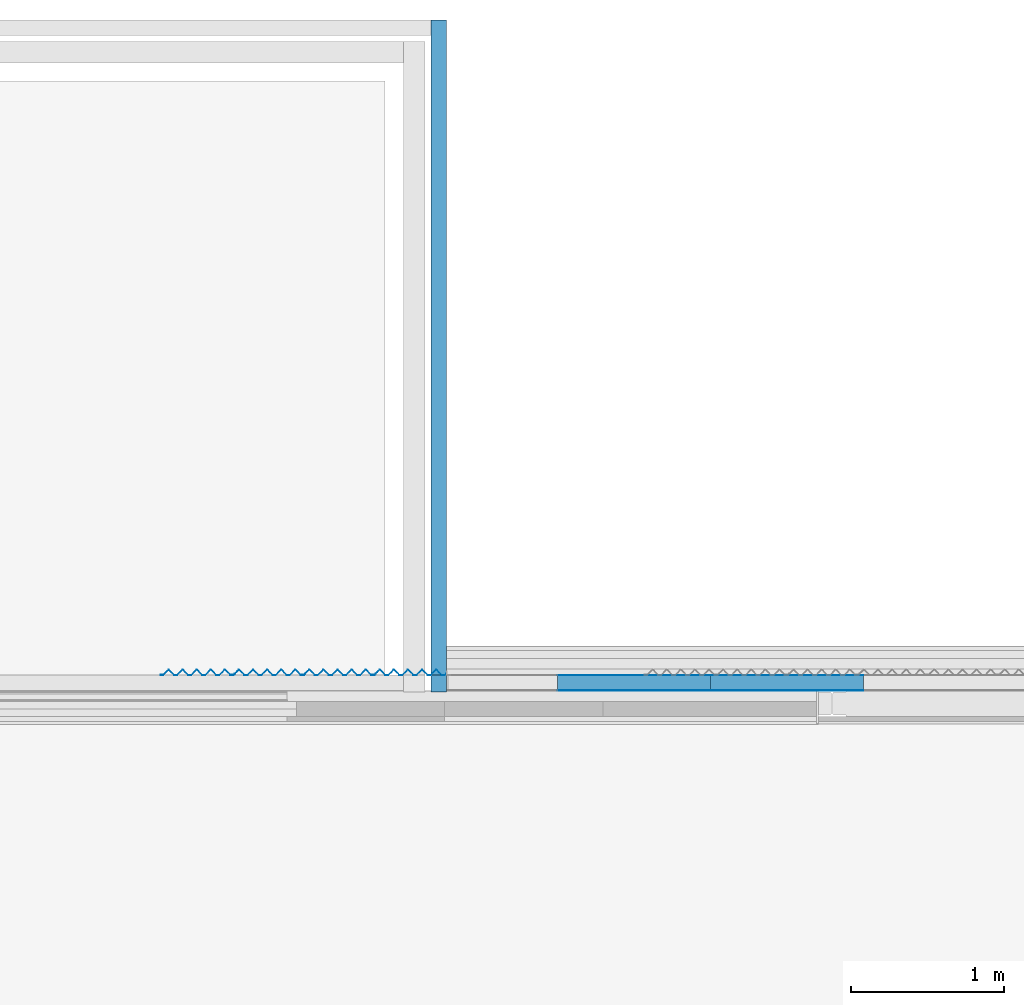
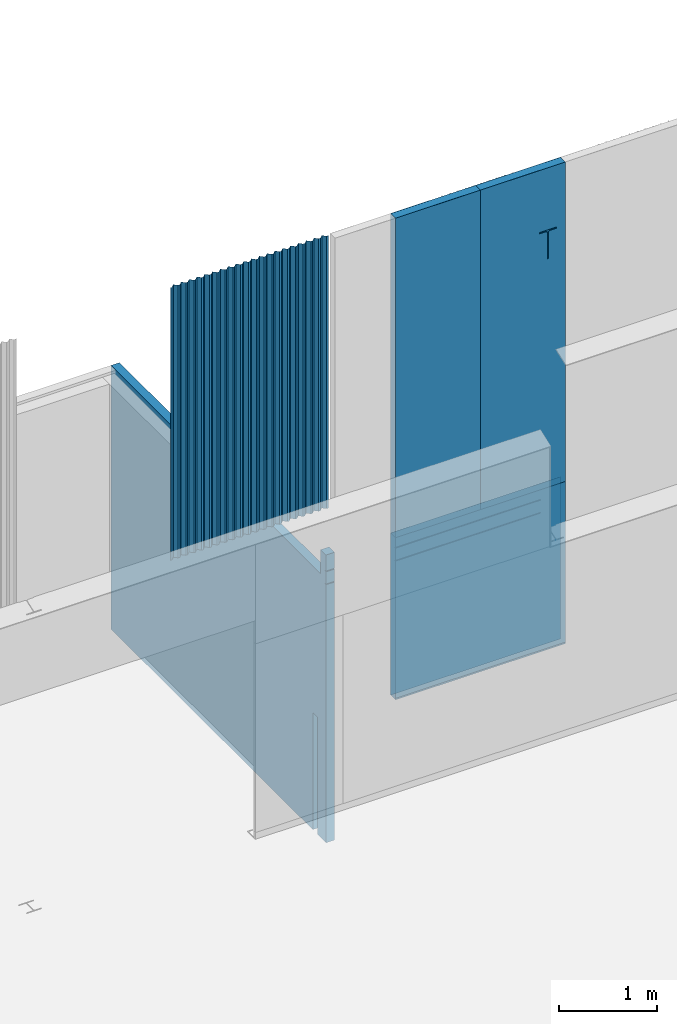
# One storey, part 96 of 338: 14 building element parts, 6 elements without a shape of their own.
"""IFC2X3 building model written with IfcOpenShell, lengths in millimetres."""

from ifc_helpers import new_model, entity, si_unit, converted_unit, derived_unit, money_unit, direction, frame, origin_with_axes, place, context, subcontext, project, spatial, faceted_brep, material, type_object, element, aggregate, save


model = new_model("IFC2X3")

# Units and contexts
model_context = context("Model", 3, precision=0.01, world=origin_with_axes(), true_north=direction((0.0, 1.0)))
plan_context = context("Plan", 3, precision=0.01, world=origin_with_axes(), true_north=direction((0.0, 1.0)))
body_context = subcontext(model_context, "Body", "Model", "MODEL_VIEW")
ifc_project = project(units=[si_unit("LENGTHUNIT", "METRE", prefix="MILLI"), si_unit("AREAUNIT", "SQUARE_METRE"), si_unit("VOLUMEUNIT", "CUBIC_METRE"), converted_unit("PLANEANGLEUNIT", "DEGREE", entity("IfcPlaneAngleMeasure", 0.0174532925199), si_unit("PLANEANGLEUNIT", "RADIAN"), dimensions=[0, 0, 0, 0, 0, 0, 0]), money_unit("EUR"), converted_unit("TIMEUNIT", "Year", entity("IfcTimeMeasure", 31556926.0), si_unit("TIMEUNIT", "SECOND"), dimensions=[0, 0, 1, 0, 0, 0, 0]), si_unit("MASSUNIT", "GRAM", prefix="KILO"), si_unit("THERMODYNAMICTEMPERATUREUNIT", "DEGREE_CELSIUS"), si_unit("LUMINOUSINTENSITYUNIT", "LUMEN"), si_unit("ENERGYUNIT", "JOULE", prefix="MEGA"), derived_unit("THERMALCONDUCTANCEUNIT", [(si_unit("POWERUNIT", "WATT"), 1), (si_unit("LENGTHUNIT", "METRE"), -1), (si_unit("THERMODYNAMICTEMPERATUREUNIT", "KELVIN"), -1)]), derived_unit("SPECIFICHEATCAPACITYUNIT", [(si_unit("ENERGYUNIT", "JOULE"), 1), (si_unit("MASSUNIT", "GRAM", prefix="KILO"), -1), (si_unit("THERMODYNAMICTEMPERATUREUNIT", "KELVIN"), -1)]), derived_unit("MASSDENSITYUNIT", [(si_unit("MASSUNIT", "GRAM", prefix="KILO"), 1), (si_unit("VOLUMEUNIT", "CUBIC_METRE"), -1)])], contexts=[model_context, plan_context])

# Site, building, storey
site_placement = place(None, origin_with_axes())
site = spatial("IfcSite", under=ifc_project, at=site_placement, Name="Fortuinstraat Woensdrecht", CompositionType="ELEMENT")
building_placement = place(site_placement, origin_with_axes())
building = spatial("IfcBuilding", under=site, at=building_placement, Name="IKC Fortuna", CompositionType="ELEMENT")
storey_placement = place(building_placement, origin_with_axes())
storey = spatial("IfcBuildingStorey", under=building, at=storey_placement, Name="00 begane grond", CompositionType="ELEMENT", Elevation=0.0)

# Wall, building element part
wall_type_1 = type_object("IfcWallType", Name="21 MW accent 280", PredefinedType="NOTDEFINED")
wall_1_placement = place(storey_placement, frame((44333.4279792, 39596.2966283, -485.0), z_axis=(0.0, 0.0, 1.0), x_axis=(-2.24888890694e-07, -1.0, 0.0)))
wall_1 = element("IfcWall", 1, at=wall_1_placement, inside=storey, type_object=wall_type_1, Name="21_Wand_Baksteen")
ifc_material_1 = material(Name="Steen - Baksteen Accent")
building_element_part_1_placement = place(wall_1_placement, origin_with_axes())
building_element_part_1 = element("IfcBuildingElementPart", 2, at=building_element_part_1_placement, material=ifc_material_1, Name="Steen - Baksteen Accent", context=body_context, shape_type="Brep", body=[
    faceted_brep([(4090.99993703, 280.0, 3375.5), (4109.99995952, 280.0, 3375.5), (4109.99995952, 280.0, 3223.5), (4090.99993703, 280.0, 3223.5), (4090.99993703, 280.0, 3214.0), (4109.99995952, 280.0, 3214.0), (4109.99995952, 280.0, 0.0), (3939.99993705, 280.0, 0.0), (3939.99993705, 279.999936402, 1460.0), (3839.99993705, 279.999936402, 1460.0), (3839.99993705, 280.0, 0.0), (-280.000062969, 280.0, 0.0), (-280.000060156, 279.999937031, 3285.0), (3999.99993703, 280.000899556, 3285.0), (3999.99993703, 280.00242465, 3585.00000082), (4109.99995952, 280.0, 3585.0), (4109.99995952, 280.0, 3385.0), (4090.99993703, 280.0, 3385.0), (4090.99995952, 180.0, 3375.5), (4109.99995952, 180.0, 3375.5), (4109.99995952, 180.0, 3223.5), (4090.99995952, 180.0, 3223.5), (4090.99995952, 180.0, 3214.0), (4109.99995952, 180.0, 3214.0), (4109.99995952, 180.0, 0.0), (3939.99995954, 180.0, 0.0), (3939.99995954, 180.0, 1460.0), (3839.99995954, 180.0, 1460.0), (3839.99995954, 180.0, 0.0), (-280.00004048, 180.0, 0.0), (-280.000037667, 179.999937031, 3285.0), (3999.99995952, 180.000899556, 3285.0), (3999.99995952, 180.000904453, 3585.00000254), (4109.99995952, 180.0, 3585.0), (4109.99995952, 180.0, 3385.0), (4090.99995952, 180.0, 3385.0)], [[[0, 1, 2, 3, 4, 5, 6, 7, 8, 9, 10, 11, 12, 13, 14, 15, 16, 17]], [[1, 0, 18, 19]], [[1, 19, 20, 2]], [[3, 2, 20, 21]], [[4, 3, 21, 22]], [[5, 4, 22, 23]], [[5, 23, 24, 6]], [[24, 25, 7, 6]], [[26, 8, 7, 25]], [[27, 9, 8, 26]], [[28, 10, 9, 27]], [[11, 10, 28, 29]], [[30, 12, 11, 29]], [[13, 12, 30, 31]], [[13, 31, 32, 14]], [[33, 15, 14, 32]], [[34, 16, 15, 33]], [[17, 16, 34, 35]], [[0, 17, 35, 18]], [[35, 34, 33, 32, 31, 30, 29, 28, 27, 26, 25, 24, 23, 22, 21, 20, 19, 18]]]),
])
aggregate(wall_1, [building_element_part_1])

# Wall, building element parts
wall_type_2 = type_object("IfcWallType", Name="21 sandwich 100", PredefinedType="NOTDEFINED")
wall_2_placement = place(storey_placement, frame((45338.4270571, 35496.2966282, 1000.0), z_axis=(0.0, 0.0, 1.0), x_axis=(1.0, 0.0, 0.0)))
wall_2 = element("IfcWall", 3, at=wall_2_placement, inside=storey, type_object=wall_type_2, Name="21_Wand_sandwichplaat")
ifc_material_2 = material(Name="Metaal - Aluminium")
building_element_part_2_placement = place(wall_2_placement, origin_with_axes())
building_element_part_2 = element("IfcBuildingElementPart", 4, at=building_element_part_2_placement, material=ifc_material_2, Name="Metaal - Aluminium", context=body_context, shape_type="Brep", body=[
    faceted_brep([(2000.0, 98.9999999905, 2019.99999434), (2000.0, 99.9999999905, 2019.99999434), (4.76063632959e-10, 100.0, 2019.99999434), (4.68958205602e-10, 99.0, 2019.99999434), (2000.0, 98.9999999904, 0.0), (2000.0, 99.9999999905, 0.0), (4.76063632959e-10, 100.0, 0.0), (4.68958205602e-10, 99.0, 0.0)], [[[0, 1, 2, 3]], [[0, 4, 5, 1]], [[1, 5, 6, 2]], [[3, 2, 6, 7]], [[4, 0, 3, 7]], [[5, 4, 7, 6]]]),
])
ifc_material_3 = material(Name="Isolatie - Kunststof hard")
building_element_part_3_placement = place(wall_2_placement, origin_with_axes())
building_element_part_3 = element("IfcBuildingElementPart", 5, at=building_element_part_3_placement, material=ifc_material_3, Name="Isolatie - Kunststof hard", context=body_context, shape_type="Brep", body=[
    faceted_brep([(1705.00000008, 0.999999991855, 1890.5), (0.0, 0.999999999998, 1890.5), (0.0, 0.999999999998, 1738.5), (1705.00000008, 0.999999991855, 1738.5), (1705.00000008, 0.999999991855, 1729.0), (0.0, 0.999999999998, 1729.0), (0.0, 0.999999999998, 0.0), (2000.0, 0.999999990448, 0.0), (2000.0, 0.999999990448, 2019.99999434), (0.0, 0.999999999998, 2019.99999434), (0.0, 0.999999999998, 1900.0), (1705.00000008, 0.999999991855, 1900.0), (1705.00000008, 9.00000001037, 1890.5), (0.0, 9.00000001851, 1890.5), (0.0, 9.00000001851, 1900.0), (4.68958205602e-10, 99.0, 2019.99999434), (4.68958205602e-10, 99.0, 0.0), (0.0, 9.00000001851, 1729.0), (0.0, 9.00000001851, 1738.5), (1705.00000008, 9.00000001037, 1738.5), (1705.00000008, 9.00000001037, 1729.0), (2000.0, 98.9999999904, 0.0), (2000.0, 98.9999999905, 2019.99999434), (1705.00000008, 9.00000001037, 1900.0)], [[[0, 1, 2, 3, 4, 5, 6, 7, 8, 9, 10, 11]], [[1, 0, 12, 13]], [[14, 10, 9, 15, 16, 6, 5, 17, 18, 2, 1, 13]], [[3, 2, 18, 19]], [[4, 3, 19, 20]], [[5, 4, 20, 17]], [[16, 21, 7, 6]], [[22, 8, 7, 21]], [[9, 8, 22, 15]], [[11, 10, 14, 23]], [[0, 11, 23, 12]], [[14, 13, 12, 23]], [[15, 22, 21, 16]], [[18, 17, 20, 19]]]),
])
building_element_part_4_placement = place(wall_2_placement, origin_with_axes())
building_element_part_4 = element("IfcBuildingElementPart", 6, at=building_element_part_4_placement, material=ifc_material_2, Name="Metaal - Aluminium", context=body_context, shape_type="Brep", body=[
    faceted_brep([(0.0, 0.0, 1738.5), (0.0, 0.0, 1890.5), (0.0, 0.999999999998, 1890.5), (0.0, 0.999999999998, 1738.5), (0.0, 0.0, 1729.0), (0.0, 1.85025328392e-08, 19.996797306), (2000.0, 8.95283847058e-09, 19.996797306), (2000.0, -9.54969436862e-09, 2019.99999434), (0.0, 0.0, 2019.99999434), (0.0, 0.0, 1900.0), (1705.00000008, -8.14281975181e-09, 1900.0), (1705.00000008, -8.14281975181e-09, 1890.5), (1705.00000008, -8.14281975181e-09, 1738.5), (1705.00000008, -8.14281975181e-09, 1729.0), (1705.00000008, 0.999999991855, 1890.5), (1705.00000008, 0.999999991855, 1900.0), (0.0, 0.999999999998, 1900.0), (0.0, 0.999999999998, 2019.99999434), (2000.0, 0.999999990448, 2019.99999434), (2000.0, 0.99999999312, 19.9966193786), (0.0, 1.00000000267, 19.9966193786), (0.0, 0.999999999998, 1729.0), (1705.00000008, 0.999999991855, 1729.0), (1705.00000008, 0.999999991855, 1738.5)], [[[0, 1, 2, 3]], [[4, 5, 6, 7, 8, 9, 10, 11, 1, 0, 12, 13]], [[14, 2, 1, 11]], [[2, 14, 15, 16, 17, 18, 19, 20, 21, 22, 23, 3]], [[12, 0, 3, 23]], [[20, 5, 4, 21]], [[5, 20, 19, 6]], [[7, 6, 19, 18]], [[17, 8, 7, 18]], [[9, 8, 17, 16]], [[16, 15, 10, 9]], [[11, 10, 15, 14]], [[13, 12, 23, 22]], [[4, 13, 22, 21]]]),
])
aggregate(wall_2, [building_element_part_2, building_element_part_3, building_element_part_4])

wall_3_placement = place(storey_placement, frame((46338.4263827, 35496.2966283, 3019.99999434), z_axis=(0.0, 0.0, 1.0), x_axis=(1.0, 0.0, 0.0)))
wall_3 = element("IfcWall", 7, at=wall_3_placement, inside=storey, type_object=wall_type_2, Name="21_Wand_sandwichplaat")
building_element_part_5_placement = place(wall_3_placement, origin_with_axes())
building_element_part_5 = element("IfcBuildingElementPart", 8, at=building_element_part_5_placement, material=ifc_material_2, Name="Metaal - Aluminium", context=body_context, shape_type="Brep", body=[
    faceted_brep([(999.999325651, 99.0, 3980.0000037), (999.999325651, 100.0, 3980.0000037), (0.0, 100.0, 3980.0000037), (0.0, 99.0, 3980.0000037), (999.999325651, 99.0, 0.0), (999.999325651, 100.0, 0.0), (0.0, 100.0, 0.0), (0.0, 99.0, 0.0)], [[[0, 1, 2, 3]], [[0, 4, 5, 1]], [[1, 5, 6, 2]], [[3, 2, 6, 7]], [[4, 0, 3, 7]], [[5, 4, 7, 6]]]),
])
building_element_part_6_placement = place(wall_3_placement, origin_with_axes())
building_element_part_6 = element("IfcBuildingElementPart", 9, at=building_element_part_6_placement, material=ifc_material_3, Name="Isolatie - Kunststof hard", context=body_context, shape_type="Brep", body=[
    faceted_brep([(0.0, 0.999999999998, 0.0), (999.999325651, 0.999999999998, 0.0), (999.999325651, 0.999999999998, 3980.0000037), (0.0, 0.999999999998, 3980.0000037), (695.000674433, 0.999999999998, 3191.45108055), (695.000674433, 0.999999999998, 3207.45334515), (895.000674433, 0.999999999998, 3207.45334515), (895.000674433, 0.999999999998, 3191.45108055), (821.100674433, 0.999999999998, 3191.45108055), (810.600674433, 0.999999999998, 3188.63721582), (802.914140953, 0.999999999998, 3180.94959441), (800.100674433, 0.999999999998, 3170.44810827), (800.100674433, 0.999999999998, 2845.47611796), (789.900674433, 0.999999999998, 2845.47611796), (789.900674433, 0.999999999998, 3170.44810827), (787.087207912, 0.999999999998, 3180.94959441), (779.400674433, 0.999999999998, 3188.63721582), (768.900674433, 0.999999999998, 3191.45108055), (0.0, 99.0, 0.0), (999.999325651, 99.0, 0.0), (999.999325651, 99.0, 3980.0000037), (0.0, 99.0, 3980.0000037), (695.000674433, 6.81952222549, 3191.35316472), (695.000674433, 7.08869064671, 3207.35090045), (895.000674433, 7.08869064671, 3207.35090045), (895.000674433, 6.81952222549, 3191.35316472), (821.100674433, 6.81952222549, 3191.35316472), (810.600674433, 6.77219120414, 3188.54009635), (802.914140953, 6.64288044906, 3180.85465065), (800.100674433, 6.46623867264, 3170.35613658), (768.900674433, 6.81952222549, 3191.35316472), (779.400674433, 6.77219120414, 3188.54009635), (787.087207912, 6.64288044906, 3180.85465065), (789.900674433, 6.46623867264, 3170.35613658)], [[[0, 1, 2, 3], [4, 5, 6, 7, 8, 9, 10, 11, 12, 13, 14, 15, 16, 17]], [[18, 19, 1, 0]], [[20, 2, 1, 19]], [[3, 2, 20, 21]], [[0, 3, 21, 18]], [[5, 4, 22, 23]], [[6, 5, 23, 24]], [[7, 6, 24, 25]], [[8, 7, 25, 26]], [[9, 8, 26, 27]], [[10, 9, 27, 28]], [[11, 10, 28, 29]], [[12, 11, 29]], [[13, 12, 29, 28, 27, 26, 25, 24, 23, 22, 30, 31, 32, 33]], [[14, 13, 33]], [[15, 14, 33, 32]], [[16, 15, 32, 31]], [[17, 16, 31, 30]], [[4, 17, 30, 22]], [[21, 20, 19, 18]]]),
])
building_element_part_7_placement = place(wall_3_placement, origin_with_axes())
building_element_part_7 = element("IfcBuildingElementPart", 10, at=building_element_part_7_placement, material=ifc_material_2, Name="Metaal - Aluminium", context=body_context, shape_type="Brep", body=[
    faceted_brep([(0.0, 0.0, 0.0), (999.999325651, 0.0, 0.0), (999.999325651, 0.0, 3980.0000037), (0.0, 0.0, 3980.0000037), (695.000674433, 0.0, 3191.46790596), (695.000674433, 0.0, 3207.47017056), (895.000674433, 0.0, 3207.47017056), (895.000674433, 0.0, 3191.46790596), (821.100674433, 0.0, 3191.46790596), (810.600674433, 0.0, 3188.65404123), (802.914140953, 0.0, 3180.96641982), (800.100674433, 0.0, 3170.46493368), (800.100674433, 0.0, 2786.04219308), (789.900674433, 0.0, 2786.04219308), (789.900674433, 0.0, 3170.46493368), (787.087207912, 0.0, 3180.96641982), (779.400674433, 0.0, 3188.65404123), (768.900674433, 0.0, 3191.46790596), (0.0, 0.999999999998, 0.0), (999.999325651, 0.999999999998, 0.0), (999.999325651, 0.999999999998, 3980.0000037), (0.0, 0.999999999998, 3980.0000037), (695.000674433, 0.999999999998, 3191.45108055), (695.000674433, 0.999999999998, 3207.45334515), (895.000674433, 0.999999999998, 3207.45334515), (895.000674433, 0.999999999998, 3191.45108055), (821.100674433, 0.999999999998, 3191.45108055), (810.600674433, 0.999999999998, 3188.63721582), (802.914140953, 0.999999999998, 3180.94959441), (800.100674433, 0.999999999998, 3170.44810827), (800.100674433, 0.999999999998, 2845.47611796), (789.900674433, 0.999999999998, 2845.47611796), (789.900674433, 0.999999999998, 3170.44810827), (787.087207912, 0.999999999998, 3180.94959441), (779.400674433, 0.999999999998, 3188.63721582), (768.900674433, 0.999999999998, 3191.45108055)], [[[0, 1, 2, 3], [4, 5, 6, 7, 8, 9, 10, 11, 12, 13, 14, 15, 16, 17]], [[18, 19, 1, 0]], [[20, 2, 1, 19]], [[3, 2, 20, 21]], [[0, 3, 21, 18]], [[22, 23, 5, 4]], [[23, 24, 6, 5]], [[24, 25, 7, 6]], [[25, 26, 8, 7]], [[26, 27, 9, 8]], [[27, 28, 10, 9]], [[28, 29, 11, 10]], [[29, 30, 12, 11]], [[30, 31, 13, 12]], [[31, 32, 14, 13]], [[32, 33, 15, 14]], [[33, 34, 16, 15]], [[34, 35, 17, 16]], [[35, 22, 4, 17]], [[21, 20, 19, 18], [26, 25, 24, 23, 22, 35, 34, 33, 32, 31, 30, 29, 28, 27]]]),
])
aggregate(wall_3, [building_element_part_5, building_element_part_6, building_element_part_7])

wall_4_placement = place(storey_placement, frame((45338.4270571, 35496.2966282, 3019.99999434), z_axis=(0.0, 0.0, 1.0), x_axis=(1.0, 0.0, 0.0)))
wall_4 = element("IfcWall", 11, at=wall_4_placement, inside=storey, type_object=wall_type_2, Name="21_Wand_sandwichplaat")
building_element_part_8_placement = place(wall_4_placement, origin_with_axes())
building_element_part_8 = element("IfcBuildingElementPart", 12, at=building_element_part_8_placement, material=ifc_material_2, Name="Metaal - Aluminium", context=body_context, shape_type="Brep", body=[
    faceted_brep([(999.999325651, 99.0, 3980.0000037), (999.999325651, 100.0, 3980.0000037), (0.0, 100.0, 3980.0000037), (0.0, 99.0, 3980.0000037), (999.999325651, 99.0, 0.0), (999.999325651, 100.0, 0.0), (0.0, 100.0, 0.0), (0.0, 99.0, 0.0)], [[[0, 1, 2, 3]], [[0, 4, 5, 1]], [[1, 5, 6, 2]], [[3, 2, 6, 7]], [[4, 0, 3, 7]], [[5, 4, 7, 6]]]),
])
building_element_part_9_placement = place(wall_4_placement, origin_with_axes())
building_element_part_9 = element("IfcBuildingElementPart", 13, at=building_element_part_9_placement, material=ifc_material_3, Name="Isolatie - Kunststof hard", context=body_context, shape_type="Brep", body=[
    faceted_brep([(999.999325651, 0.999999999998, 3980.0000037), (999.999325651, 99.0, 3980.0000037), (0.0, 99.0, 3980.0000037), (0.0, 0.999999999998, 3980.0000037), (999.999325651, 0.999999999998, 0.0), (999.999325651, 99.0, 0.0), (0.0, 99.0, 0.0), (0.0, 0.999999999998, 0.0)], [[[0, 1, 2, 3]], [[0, 4, 5, 1]], [[1, 5, 6, 2]], [[3, 2, 6, 7]], [[4, 0, 3, 7]], [[5, 4, 7, 6]]]),
])
building_element_part_10_placement = place(wall_4_placement, origin_with_axes())
building_element_part_10 = element("IfcBuildingElementPart", 14, at=building_element_part_10_placement, material=ifc_material_2, Name="Metaal - Aluminium", context=body_context, shape_type="Brep", body=[
    faceted_brep([(999.999325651, 0.0, 3980.0000037), (999.999325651, 0.999999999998, 3980.0000037), (0.0, 0.999999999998, 3980.0000037), (0.0, 0.0, 3980.0000037), (999.999325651, 0.0, 0.0), (999.999325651, 0.999999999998, 0.0), (0.0, 0.999999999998, 0.0), (0.0, 0.0, 0.0)], [[[0, 1, 2, 3]], [[0, 4, 5, 1]], [[1, 5, 6, 2]], [[3, 2, 6, 7]], [[4, 0, 3, 7]], [[5, 4, 7, 6]]]),
])
aggregate(wall_4, [building_element_part_8, building_element_part_9, building_element_part_10])

# Proxy, building element parts
building_element_proxy_type = type_object("IfcBuildingElementProxyType", Name="21 Sandwich custom pyramid 946 x 37", PredefinedType="NOTDEFINED")
proxy_1_placement = place(storey_placement, frame((43667.1161554, 35596.2966199, 3585.0), z_axis=(0.0, 0.0, 1.0), x_axis=(1.0, 0.0, 0.0)))
proxy_1 = element("IfcBuildingElementProxy", 15, at=proxy_1_placement, inside=storey, type_object=building_element_proxy_type, Name="41_Generieke bekleding & afwerking buiten_sandwich custom pyramid")
building_element_part_11_placement = place(proxy_1_placement, origin_with_axes())
building_element_part_11 = element("IfcBuildingElementPart", 16, at=building_element_part_11_placement, material=ifc_material_2, Name="Metaal - Aluminium", context=body_context, shape_type="Brep", body=[
    faceted_brep([(0.0, 2.39999686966, 0.0), (0.0, 1.20000548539, 0.0), (0.0, 1.20000548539, 3394.99999804), (0.0, 2.39999686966, 3394.99999804), (16.7470988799, 2.39999686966, 0.0), (52.0000026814, 36.6736482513, 0.0), (88.487191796, 1.20000548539, 0.0), (107.51282048, 1.20000548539, 0.0), (143.999995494, 36.6736482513, 0.0), (180.487184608, 1.20000548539, 0.0), (199.512813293, 1.20000548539, 0.0), (236.000002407, 36.6736482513, 0.0), (272.487191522, 1.20000548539, 0.0), (291.512820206, 1.20000548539, 0.0), (327.99999522, 36.6736482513, 0.0), (364.487184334, 1.20000548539, 0.0), (383.512813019, 1.20000548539, 0.0), (420.000002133, 36.6736482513, 0.0), (456.487191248, 1.20000548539, 0.0), (460.000006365, 1.20000548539, 0.0), (477.23428491, 1.20000548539, 0.0), (485.472879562, 9.20975302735, 0.0), (486.309372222, 8.34935896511, 0.0), (477.721464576, 0.0, 0.0), (455.999997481, 0.0, 0.0), (420.000002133, 35.0000001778, 0.0), (384.000006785, 0.0, 0.0), (364.000004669, 0.0, 0.0), (327.99999522, 35.0000001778, 0.0), (291.999999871, 0.0, 0.0), (271.999997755, 0.0, 0.0), (236.000002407, 35.0000001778, 0.0), (199.999992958, 0.0, 0.0), (180.000004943, 0.0, 0.0), (143.999995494, 35.0000001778, 0.0), (108.000000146, 0.0, 0.0), (87.9999980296, 0.0, 0.0), (52.0000026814, 35.0000001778, 0.0), (17.2342926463, 1.20000548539, 0.0), (17.2342926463, 1.20000548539, 3394.99999804), (52.0000026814, 35.0000001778, 3394.99999804), (87.9999980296, 0.0, 3394.99999804), (108.000000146, 0.0, 3394.99999804), (143.999995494, 35.0000001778, 3394.99999804), (180.000004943, 0.0, 3394.99999804), (199.999992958, 0.0, 3394.99999804), (236.000002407, 35.0000001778, 3394.99999804), (271.999997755, 0.0, 3394.99999804), (291.999999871, 0.0, 3394.99999804), (327.99999522, 35.0000001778, 3394.99999804), (364.000004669, 0.0, 3394.99999804), (384.000006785, 0.0, 3394.99999804), (420.000002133, 35.0000001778, 3394.99999804), (455.999997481, 0.0, 3394.99999804), (477.721464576, 0.0, 3394.99999804), (486.309372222, 8.34935896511, 3394.99999804), (485.472879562, 9.20975302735, 3394.99999804), (477.23428491, 1.20000548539, 3394.99999804), (460.000006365, 1.20000548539, 3394.99999804), (456.487191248, 1.20000548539, 3394.99999804), (420.000002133, 36.6736482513, 3394.99999804), (383.512813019, 1.20000548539, 3394.99999804), (364.487184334, 1.20000548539, 3394.99999804), (327.99999522, 36.6736482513, 3394.99999804), (291.512820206, 1.20000548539, 3394.99999804), (272.487191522, 1.20000548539, 3394.99999804), (236.000002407, 36.6736482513, 3394.99999804), (199.512813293, 1.20000548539, 3394.99999804), (180.487184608, 1.20000548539, 3394.99999804), (143.999995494, 36.6736482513, 3394.99999804), (107.51282048, 1.20000548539, 3394.99999804), (88.487191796, 1.20000548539, 3394.99999804), (52.0000026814, 36.6736482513, 3394.99999804), (16.7470988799, 2.39999686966, 3394.99999804)], [[[0, 1, 2, 3]], [[0, 4, 5, 6, 7, 8, 9, 10, 11, 12, 13, 14, 15, 16, 17, 18, 19, 20, 21, 22, 23, 24, 25, 26, 27, 28, 29, 30, 31, 32, 33, 34, 35, 36, 37, 38, 1]], [[1, 38, 39, 2]], [[3, 2, 39, 40, 41, 42, 43, 44, 45, 46, 47, 48, 49, 50, 51, 52, 53, 54, 55, 56, 57, 58, 59, 60, 61, 62, 63, 64, 65, 66, 67, 68, 69, 70, 71, 72, 73]], [[4, 0, 3, 73]], [[5, 4, 73, 72]], [[6, 5, 72, 71]], [[7, 6, 71, 70]], [[8, 7, 70, 69]], [[9, 8, 69, 68]], [[10, 9, 68, 67]], [[11, 10, 67, 66]], [[12, 11, 66, 65]], [[13, 12, 65, 64]], [[14, 13, 64, 63]], [[15, 14, 63, 62]], [[16, 15, 62, 61]], [[17, 16, 61, 60]], [[18, 17, 60, 59]], [[19, 18, 59, 58]], [[20, 19, 58, 57]], [[21, 20, 57, 56]], [[22, 21, 56, 55]], [[23, 22, 55, 54]], [[24, 23, 54, 53]], [[25, 24, 53, 52]], [[26, 25, 52, 51]], [[27, 26, 51, 50]], [[28, 27, 50, 49]], [[29, 28, 49, 48]], [[30, 29, 48, 47]], [[31, 30, 47, 46]], [[32, 31, 46, 45]], [[33, 32, 45, 44]], [[34, 33, 44, 43]], [[35, 34, 43, 42]], [[36, 35, 42, 41]], [[37, 36, 41, 40]], [[38, 37, 40, 39]]]),
])
building_element_part_12_placement = place(proxy_1_placement, origin_with_axes())
building_element_part_12 = element("IfcBuildingElementPart", 17, at=building_element_part_12_placement, material=ifc_material_2, Name="Metaal - Aluminium", context=body_context, shape_type="Brep", body=[
    faceted_brep([(460.0, 1.2, 0.0), (477.234285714, 1.2, 0.0), (477.234285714, 1.2, 3394.99999804), (460.0, 1.2, 3394.99999804), (460.0, 2.4, 0.0), (476.747100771, 2.4, 0.0), (512.0, 36.6736520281, 0.0), (548.487184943, 1.2, 0.0), (567.512815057, 1.2, 0.0), (604.0, 36.6736520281, 0.0), (640.487184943, 1.2, 0.0), (659.512815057, 1.2, 0.0), (696.0, 36.6736520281, 0.0), (732.487184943, 1.2, 0.0), (751.512815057, 1.2, 0.0), (788.0, 36.6736520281, 0.0), (824.487184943, 1.2, 0.0), (843.512815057, 1.2, 0.0), (880.0, 36.6736520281, 0.0), (916.487184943, 1.2, 0.0), (937.234285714, 1.2, 0.0), (945.472884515, 9.20974883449, 0.0), (946.309378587, 8.34935493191, 0.0), (937.721470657, 0.0, 0.0), (916.0, 0.0, 0.0), (880.0, 35.0, 0.0), (844.0, 0.0, 0.0), (824.0, 0.0, 0.0), (788.0, 35.0, 0.0), (752.0, 0.0, 0.0), (732.0, 0.0, 0.0), (696.0, 35.0, 0.0), (660.0, 0.0, 0.0), (640.0, 0.0, 0.0), (604.0, 35.0, 0.0), (568.0, 0.0, 0.0), (548.0, 0.0, 0.0), (512.0, 35.0, 0.0), (485.472879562, 9.20975302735, 0.0), (485.472879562, 9.20975302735, 3394.99999804), (512.0, 35.0, 3394.99999804), (548.0, 0.0, 3394.99999804), (568.0, 0.0, 3394.99999804), (604.0, 35.0, 3394.99999804), (640.0, 0.0, 3394.99999804), (660.0, 0.0, 3394.99999804), (696.0, 35.0, 3394.99999804), (732.0, 0.0, 3394.99999804), (752.0, 0.0, 3394.99999804), (788.0, 35.0, 3394.99999804), (824.0, 0.0, 3394.99999804), (844.0, 0.0, 3394.99999804), (880.0, 35.0, 3394.99999804), (916.0, 0.0, 3394.99999804), (937.721470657, 0.0, 3394.99999804), (946.309378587, 8.34935493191, 3394.99999804), (945.472884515, 9.20974883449, 3394.99999804), (937.234285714, 1.2, 3394.99999804), (916.487184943, 1.2, 3394.99999804), (880.0, 36.6736520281, 3394.99999804), (843.512815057, 1.2, 3394.99999804), (824.487184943, 1.2, 3394.99999804), (788.0, 36.6736520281, 3394.99999804), (751.512815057, 1.2, 3394.99999804), (732.487184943, 1.2, 3394.99999804), (696.0, 36.6736520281, 3394.99999804), (659.512815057, 1.2, 3394.99999804), (640.487184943, 1.2, 3394.99999804), (604.0, 36.6736520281, 3394.99999804), (567.512815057, 1.2, 3394.99999804), (548.487184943, 1.2, 3394.99999804), (512.0, 36.6736520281, 3394.99999804), (476.747100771, 2.4, 3394.99999804), (460.0, 2.4, 3394.99999804)], [[[0, 1, 2, 3]], [[0, 4, 5, 6, 7, 8, 9, 10, 11, 12, 13, 14, 15, 16, 17, 18, 19, 20, 21, 22, 23, 24, 25, 26, 27, 28, 29, 30, 31, 32, 33, 34, 35, 36, 37, 38, 1]], [[1, 38, 39, 2]], [[3, 2, 39, 40, 41, 42, 43, 44, 45, 46, 47, 48, 49, 50, 51, 52, 53, 54, 55, 56, 57, 58, 59, 60, 61, 62, 63, 64, 65, 66, 67, 68, 69, 70, 71, 72, 73]], [[4, 0, 3, 73]], [[5, 4, 73, 72]], [[6, 5, 72, 71]], [[7, 6, 71, 70]], [[8, 7, 70, 69]], [[9, 8, 69, 68]], [[10, 9, 68, 67]], [[11, 10, 67, 66]], [[12, 11, 66, 65]], [[13, 12, 65, 64]], [[14, 13, 64, 63]], [[15, 14, 63, 62]], [[16, 15, 62, 61]], [[17, 16, 61, 60]], [[18, 17, 60, 59]], [[19, 18, 59, 58]], [[20, 19, 58, 57]], [[21, 20, 57, 56]], [[22, 21, 56, 55]], [[23, 22, 55, 54]], [[24, 23, 54, 53]], [[25, 24, 53, 52]], [[26, 25, 52, 51]], [[27, 26, 51, 50]], [[28, 27, 50, 49]], [[29, 28, 49, 48]], [[30, 29, 48, 47]], [[31, 30, 47, 46]], [[32, 31, 46, 45]], [[33, 32, 45, 44]], [[34, 33, 44, 43]], [[35, 34, 43, 42]], [[36, 35, 42, 41]], [[37, 36, 41, 40]], [[38, 37, 40, 39]]]),
])
aggregate(proxy_1, [building_element_part_11, building_element_part_12])

proxy_2_placement = place(storey_placement, frame((42747.1161554, 35596.2966199, 3585.0), z_axis=(0.0, 0.0, 1.0), x_axis=(1.0, 0.0, 0.0)))
proxy_2 = element("IfcBuildingElementProxy", 18, at=proxy_2_placement, inside=storey, type_object=building_element_proxy_type, Name="41_Generieke bekleding & afwerking buiten_sandwich custom pyramid")
building_element_part_13_placement = place(proxy_2_placement, origin_with_axes())
building_element_part_13 = element("IfcBuildingElementPart", 19, at=building_element_part_13_placement, material=ifc_material_2, Name="Metaal - Aluminium", context=body_context, shape_type="Brep", body=[
    faceted_brep([(0.0, 2.39999686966, 0.0), (0.0, 1.20000548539, 0.0), (0.0, 1.20000548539, 3394.99999804), (0.0, 2.39999686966, 3394.99999804), (16.7470988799, 2.39999686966, 0.0), (52.0000026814, 36.6736482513, 0.0), (88.487191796, 1.20000548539, 0.0), (107.51282048, 1.20000548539, 0.0), (143.999995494, 36.6736482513, 0.0), (180.487184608, 1.20000548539, 0.0), (199.512813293, 1.20000548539, 0.0), (236.000002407, 36.6736482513, 0.0), (272.487191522, 1.20000548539, 0.0), (291.512820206, 1.20000548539, 0.0), (327.99999522, 36.6736482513, 0.0), (364.487184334, 1.20000548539, 0.0), (383.512813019, 1.20000548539, 0.0), (420.000002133, 36.6736482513, 0.0), (456.487191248, 1.20000548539, 0.0), (460.000006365, 1.20000548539, 0.0), (477.23428491, 1.20000548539, 0.0), (485.472879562, 9.20975302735, 0.0), (486.309372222, 8.34935896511, 0.0), (477.721464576, 0.0, 0.0), (455.999997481, 0.0, 0.0), (420.000002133, 35.0000001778, 0.0), (384.000006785, 0.0, 0.0), (364.000004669, 0.0, 0.0), (327.99999522, 35.0000001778, 0.0), (291.999999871, 0.0, 0.0), (271.999997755, 0.0, 0.0), (236.000002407, 35.0000001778, 0.0), (199.999992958, 0.0, 0.0), (180.000004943, 0.0, 0.0), (143.999995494, 35.0000001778, 0.0), (108.000000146, 0.0, 0.0), (87.9999980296, 0.0, 0.0), (52.0000026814, 35.0000001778, 0.0), (17.2342926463, 1.20000548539, 0.0), (17.2342926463, 1.20000548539, 3394.99999804), (52.0000026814, 35.0000001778, 3394.99999804), (87.9999980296, 0.0, 3394.99999804), (108.000000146, 0.0, 3394.99999804), (143.999995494, 35.0000001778, 3394.99999804), (180.000004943, 0.0, 3394.99999804), (199.999992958, 0.0, 3394.99999804), (236.000002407, 35.0000001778, 3394.99999804), (271.999997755, 0.0, 3394.99999804), (291.999999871, 0.0, 3394.99999804), (327.99999522, 35.0000001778, 3394.99999804), (364.000004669, 0.0, 3394.99999804), (384.000006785, 0.0, 3394.99999804), (420.000002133, 35.0000001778, 3394.99999804), (455.999997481, 0.0, 3394.99999804), (477.721464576, 0.0, 3394.99999804), (486.309372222, 8.34935896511, 3394.99999804), (485.472879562, 9.20975302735, 3394.99999804), (477.23428491, 1.20000548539, 3394.99999804), (460.000006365, 1.20000548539, 3394.99999804), (456.487191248, 1.20000548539, 3394.99999804), (420.000002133, 36.6736482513, 3394.99999804), (383.512813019, 1.20000548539, 3394.99999804), (364.487184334, 1.20000548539, 3394.99999804), (327.99999522, 36.6736482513, 3394.99999804), (291.512820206, 1.20000548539, 3394.99999804), (272.487191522, 1.20000548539, 3394.99999804), (236.000002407, 36.6736482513, 3394.99999804), (199.512813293, 1.20000548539, 3394.99999804), (180.487184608, 1.20000548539, 3394.99999804), (143.999995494, 36.6736482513, 3394.99999804), (107.51282048, 1.20000548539, 3394.99999804), (88.487191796, 1.20000548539, 3394.99999804), (52.0000026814, 36.6736482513, 3394.99999804), (16.7470988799, 2.39999686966, 3394.99999804)], [[[0, 1, 2, 3]], [[0, 4, 5, 6, 7, 8, 9, 10, 11, 12, 13, 14, 15, 16, 17, 18, 19, 20, 21, 22, 23, 24, 25, 26, 27, 28, 29, 30, 31, 32, 33, 34, 35, 36, 37, 38, 1]], [[1, 38, 39, 2]], [[3, 2, 39, 40, 41, 42, 43, 44, 45, 46, 47, 48, 49, 50, 51, 52, 53, 54, 55, 56, 57, 58, 59, 60, 61, 62, 63, 64, 65, 66, 67, 68, 69, 70, 71, 72, 73]], [[4, 0, 3, 73]], [[5, 4, 73, 72]], [[6, 5, 72, 71]], [[7, 6, 71, 70]], [[8, 7, 70, 69]], [[9, 8, 69, 68]], [[10, 9, 68, 67]], [[11, 10, 67, 66]], [[12, 11, 66, 65]], [[13, 12, 65, 64]], [[14, 13, 64, 63]], [[15, 14, 63, 62]], [[16, 15, 62, 61]], [[17, 16, 61, 60]], [[18, 17, 60, 59]], [[19, 18, 59, 58]], [[20, 19, 58, 57]], [[21, 20, 57, 56]], [[22, 21, 56, 55]], [[23, 22, 55, 54]], [[24, 23, 54, 53]], [[25, 24, 53, 52]], [[26, 25, 52, 51]], [[27, 26, 51, 50]], [[28, 27, 50, 49]], [[29, 28, 49, 48]], [[30, 29, 48, 47]], [[31, 30, 47, 46]], [[32, 31, 46, 45]], [[33, 32, 45, 44]], [[34, 33, 44, 43]], [[35, 34, 43, 42]], [[36, 35, 42, 41]], [[37, 36, 41, 40]], [[38, 37, 40, 39]]]),
])
building_element_part_14_placement = place(proxy_2_placement, origin_with_axes())
building_element_part_14 = element("IfcBuildingElementPart", 20, at=building_element_part_14_placement, material=ifc_material_2, Name="Metaal - Aluminium", context=body_context, shape_type="Brep", body=[
    faceted_brep([(460.0, 1.2, 0.0), (477.234285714, 1.2, 0.0), (477.234285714, 1.2, 3394.99999804), (460.0, 1.2, 3394.99999804), (460.0, 2.4, 0.0), (476.747100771, 2.4, 0.0), (512.0, 36.6736520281, 0.0), (548.487184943, 1.2, 0.0), (567.512815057, 1.2, 0.0), (604.0, 36.6736520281, 0.0), (640.487184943, 1.2, 0.0), (659.512815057, 1.2, 0.0), (696.0, 36.6736520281, 0.0), (732.487184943, 1.2, 0.0), (751.512815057, 1.2, 0.0), (788.0, 36.6736520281, 0.0), (824.487184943, 1.2, 0.0), (843.512815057, 1.2, 0.0), (880.0, 36.6736520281, 0.0), (916.487184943, 1.2, 0.0), (937.234285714, 1.2, 0.0), (945.472884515, 9.20974883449, 0.0), (946.309378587, 8.34935493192, 0.0), (937.721470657, 0.0, 0.0), (916.0, 0.0, 0.0), (880.0, 35.0, 0.0), (844.0, 0.0, 0.0), (824.0, 0.0, 0.0), (788.0, 35.0, 0.0), (752.0, 0.0, 0.0), (732.0, 0.0, 0.0), (696.0, 35.0, 0.0), (660.0, 0.0, 0.0), (640.0, 0.0, 0.0), (604.0, 35.0, 0.0), (568.0, 0.0, 0.0), (548.0, 0.0, 0.0), (512.0, 35.0, 0.0), (485.472879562, 9.20975302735, 0.0), (485.472879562, 9.20975302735, 3394.99999804), (512.0, 35.0, 3394.99999804), (548.0, 0.0, 3394.99999804), (568.0, 0.0, 3394.99999804), (604.0, 35.0, 3394.99999804), (640.0, 0.0, 3394.99999804), (660.0, 0.0, 3394.99999804), (696.0, 35.0, 3394.99999804), (732.0, 0.0, 3394.99999804), (752.0, 0.0, 3394.99999804), (788.0, 35.0, 3394.99999804), (824.0, 0.0, 3394.99999804), (844.0, 0.0, 3394.99999804), (880.0, 35.0, 3394.99999804), (916.0, 0.0, 3394.99999804), (937.721470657, 0.0, 3394.99999804), (946.309378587, 8.34935493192, 3394.99999804), (945.472884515, 9.20974883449, 3394.99999804), (937.234285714, 1.2, 3394.99999804), (916.487184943, 1.2, 3394.99999804), (880.0, 36.6736520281, 3394.99999804), (843.512815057, 1.2, 3394.99999804), (824.487184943, 1.2, 3394.99999804), (788.0, 36.6736520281, 3394.99999804), (751.512815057, 1.2, 3394.99999804), (732.487184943, 1.2, 3394.99999804), (696.0, 36.6736520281, 3394.99999804), (659.512815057, 1.2, 3394.99999804), (640.487184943, 1.2, 3394.99999804), (604.0, 36.6736520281, 3394.99999804), (567.512815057, 1.2, 3394.99999804), (548.487184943, 1.2, 3394.99999804), (512.0, 36.6736520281, 3394.99999804), (476.747100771, 2.4, 3394.99999804), (460.0, 2.4, 3394.99999804)], [[[0, 1, 2, 3]], [[0, 4, 5, 6, 7, 8, 9, 10, 11, 12, 13, 14, 15, 16, 17, 18, 19, 20, 21, 22, 23, 24, 25, 26, 27, 28, 29, 30, 31, 32, 33, 34, 35, 36, 37, 38, 1]], [[1, 38, 39, 2]], [[3, 2, 39, 40, 41, 42, 43, 44, 45, 46, 47, 48, 49, 50, 51, 52, 53, 54, 55, 56, 57, 58, 59, 60, 61, 62, 63, 64, 65, 66, 67, 68, 69, 70, 71, 72, 73]], [[4, 0, 3, 73]], [[5, 4, 73, 72]], [[6, 5, 72, 71]], [[7, 6, 71, 70]], [[8, 7, 70, 69]], [[9, 8, 69, 68]], [[10, 9, 68, 67]], [[11, 10, 67, 66]], [[12, 11, 66, 65]], [[13, 12, 65, 64]], [[14, 13, 64, 63]], [[15, 14, 63, 62]], [[16, 15, 62, 61]], [[17, 16, 61, 60]], [[18, 17, 60, 59]], [[19, 18, 59, 58]], [[20, 19, 58, 57]], [[21, 20, 57, 56]], [[22, 21, 56, 55]], [[23, 22, 55, 54]], [[24, 23, 54, 53]], [[25, 24, 53, 52]], [[26, 25, 52, 51]], [[27, 26, 51, 50]], [[28, 27, 50, 49]], [[29, 28, 49, 48]], [[30, 29, 48, 47]], [[31, 30, 47, 46]], [[32, 31, 46, 45]], [[33, 32, 45, 44]], [[34, 33, 44, 43]], [[35, 34, 43, 42]], [[36, 35, 42, 41]], [[37, 36, 41, 40]], [[38, 37, 40, 39]]]),
])
aggregate(proxy_2, [building_element_part_13, building_element_part_14])

save(model, "model.ifc")
